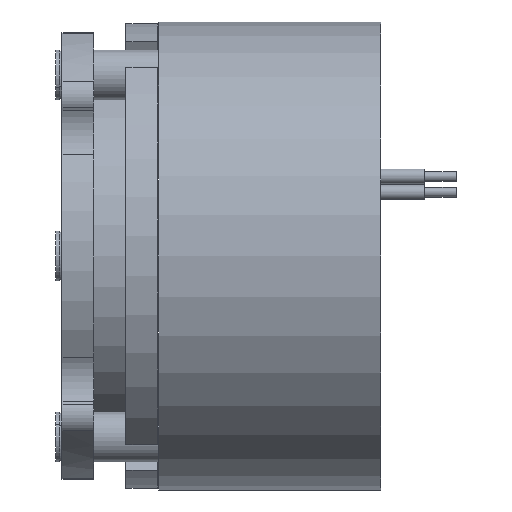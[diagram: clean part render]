
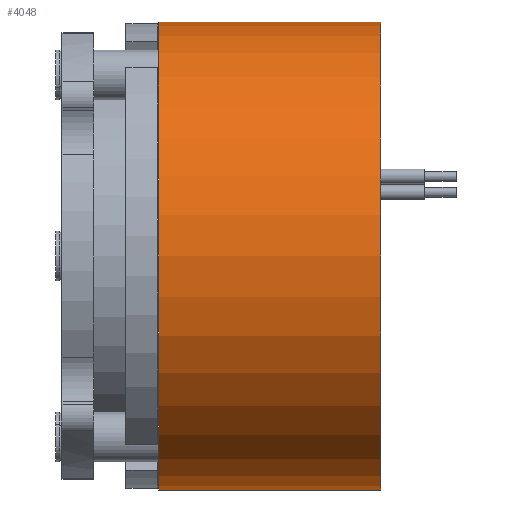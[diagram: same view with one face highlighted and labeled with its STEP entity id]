
A CAD part, front view. The second image highlights one B-rep face of the part: STEP entity #4048.
In plain terms, the highlighted cylindrical face has radius 22 mm (diameter 44 mm), a partial arc.
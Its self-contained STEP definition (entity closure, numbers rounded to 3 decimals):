
#52 = VERTEX_POINT ( 'NONE', #917 ) ;
#61 = CARTESIAN_POINT ( 'NONE',  ( 0., 0., 22. ) ) ;
#119 = LINE ( 'NONE', #2689, #3141 ) ;
#272 = DIRECTION ( 'NONE',  ( 0., 0., 1. ) ) ;
#325 = FACE_OUTER_BOUND ( 'NONE', #2172, .T. ) ;
#428 = DIRECTION ( 'NONE',  ( -1., 0., 0. ) ) ;
#595 = DIRECTION ( 'NONE',  ( -1., 0., 0. ) ) ;
#790 = EDGE_CURVE ( 'NONE', #2270, #3678, #119, .T. ) ;
#843 = CARTESIAN_POINT ( 'NONE',  ( 20.9, 0., 0. ) ) ;
#874 = EDGE_CURVE ( 'NONE', #52, #3439, #4312, .T. ) ;
#917 = CARTESIAN_POINT ( 'NONE',  ( 20.9, 0., 22. ) ) ;
#956 = EDGE_CURVE ( 'NONE', #2270, #52, #3306, .T. ) ;
#1059 = EDGE_CURVE ( 'NONE', #3678, #3439, #2954, .T. ) ;
#1124 = VECTOR ( 'NONE', #1673, 1000. ) ;
#1166 = ORIENTED_EDGE ( 'NONE', *, *, #790, .F. ) ;
#1488 = CARTESIAN_POINT ( 'NONE',  ( 0., 0., -22. ) ) ;
#1627 = AXIS2_PLACEMENT_3D ( 'NONE', #2143, #428, #272 ) ;
#1673 = DIRECTION ( 'NONE',  ( -1., 0., 0. ) ) ;
#1906 = CARTESIAN_POINT ( 'NONE',  ( 0., 0., 22. ) ) ;
#2143 = CARTESIAN_POINT ( 'NONE',  ( 0., 0., 0. ) ) ;
#2172 = EDGE_LOOP ( 'NONE', ( #1166, #3824, #4235, #3294 ) ) ;
#2183 = DIRECTION ( 'NONE',  ( 0., 0., 1. ) ) ;
#2197 = CARTESIAN_POINT ( 'NONE',  ( 20.9, 0., -22. ) ) ;
#2270 = VERTEX_POINT ( 'NONE', #2197 ) ;
#2594 = DIRECTION ( 'NONE',  ( -1., 0., 0. ) ) ;
#2603 = CYLINDRICAL_SURFACE ( 'NONE', #1627, 22. ) ;
#2689 = CARTESIAN_POINT ( 'NONE',  ( 0., 0., -22. ) ) ;
#2954 = CIRCLE ( 'NONE', #3147, 22. ) ;
#3141 = VECTOR ( 'NONE', #595, 1000. ) ;
#3147 = AXIS2_PLACEMENT_3D ( 'NONE', #3773, #2594, #2183 ) ;
#3294 = ORIENTED_EDGE ( 'NONE', *, *, #1059, .F. ) ;
#3306 = CIRCLE ( 'NONE', #4151, 22. ) ;
#3439 = VERTEX_POINT ( 'NONE', #1906 ) ;
#3479 = DIRECTION ( 'NONE',  ( -1., 0., 0. ) ) ;
#3504 = DIRECTION ( 'NONE',  ( 0., 0., 1. ) ) ;
#3678 = VERTEX_POINT ( 'NONE', #1488 ) ;
#3773 = CARTESIAN_POINT ( 'NONE',  ( 0., 0., 0. ) ) ;
#3824 = ORIENTED_EDGE ( 'NONE', *, *, #956, .T. ) ;
#4048 = ADVANCED_FACE ( 'NONE', ( #325 ), #2603, .T. ) ;
#4151 = AXIS2_PLACEMENT_3D ( 'NONE', #843, #3479, #3504 ) ;
#4235 = ORIENTED_EDGE ( 'NONE', *, *, #874, .T. ) ;
#4312 = LINE ( 'NONE', #61, #1124 ) ;
